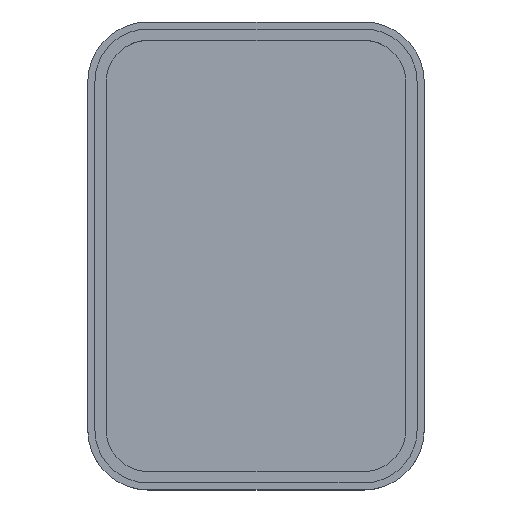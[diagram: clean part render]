
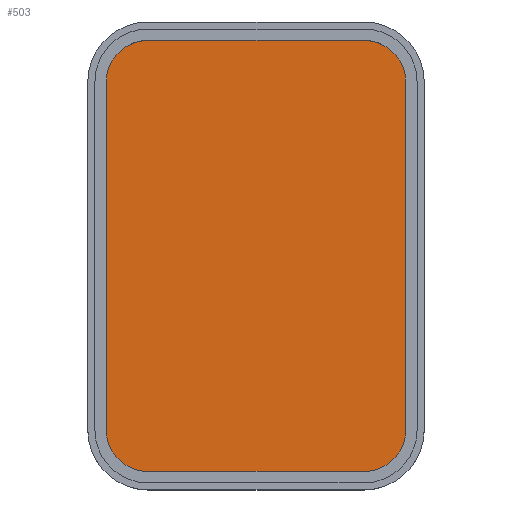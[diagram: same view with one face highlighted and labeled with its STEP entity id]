
A CAD part, top view. The second image highlights one B-rep face of the part: STEP entity #503.
In plain terms, the highlighted planar face has unit normal (0, 0, 1).
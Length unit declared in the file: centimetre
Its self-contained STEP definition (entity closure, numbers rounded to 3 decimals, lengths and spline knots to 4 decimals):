
#60=LINE('',#848,#108);
#61=LINE('',#853,#109);
#62=LINE('',#857,#110);
#63=LINE('',#861,#111);
#108=VECTOR('',#695,100.);
#109=VECTOR('',#698,100.);
#110=VECTOR('',#701,100.);
#111=VECTOR('',#704,100.);
#224=ORIENTED_EDGE('',*,*,#320,.T.);
#225=ORIENTED_EDGE('',*,*,#321,.T.);
#226=ORIENTED_EDGE('',*,*,#322,.F.);
#227=ORIENTED_EDGE('',*,*,#323,.T.);
#228=ORIENTED_EDGE('',*,*,#324,.F.);
#229=ORIENTED_EDGE('',*,*,#325,.T.);
#230=ORIENTED_EDGE('',*,*,#326,.T.);
#231=ORIENTED_EDGE('',*,*,#327,.T.);
#320=EDGE_CURVE('',#376,#377,#60,.T.);
#321=EDGE_CURVE('',#377,#378,#404,.T.);
#322=EDGE_CURVE('',#379,#378,#61,.T.);
#323=EDGE_CURVE('',#379,#380,#405,.T.);
#324=EDGE_CURVE('',#381,#380,#62,.T.);
#325=EDGE_CURVE('',#381,#382,#406,.T.);
#326=EDGE_CURVE('',#382,#383,#63,.T.);
#327=EDGE_CURVE('',#383,#376,#407,.T.);
#376=VERTEX_POINT('',#849);
#377=VERTEX_POINT('',#850);
#378=VERTEX_POINT('',#852);
#379=VERTEX_POINT('',#854);
#380=VERTEX_POINT('',#856);
#381=VERTEX_POINT('',#858);
#382=VERTEX_POINT('',#860);
#383=VERTEX_POINT('',#862);
#404=CIRCLE('',#565,0.3621);
#405=CIRCLE('',#566,0.3621);
#406=CIRCLE('',#567,0.3621);
#407=CIRCLE('',#568,0.3621);
#429=EDGE_LOOP('',(#224,#225,#226,#227,#228,#229,#230,#231));
#459=FACE_BOUND('',#429,.T.);
#479=PLANE('',#564);
#503=ADVANCED_FACE('',(#459),#479,.T.);
#564=AXIS2_PLACEMENT_3D('',#847,#693,#694);
#565=AXIS2_PLACEMENT_3D('',#851,#696,#697);
#566=AXIS2_PLACEMENT_3D('',#855,#699,#700);
#567=AXIS2_PLACEMENT_3D('',#859,#702,#703);
#568=AXIS2_PLACEMENT_3D('',#863,#705,#706);
#693=DIRECTION('',(0.,0.,1.));
#694=DIRECTION('',(1.,0.,0.));
#695=DIRECTION('',(1.,0.,0.));
#696=DIRECTION('',(0.,0.,1.));
#697=DIRECTION('',(1.,0.,0.));
#698=DIRECTION('',(0.,-1.,0.));
#699=DIRECTION('',(0.,0.,1.));
#700=DIRECTION('',(1.,0.,0.));
#701=DIRECTION('',(1.,0.,0.));
#702=DIRECTION('',(0.,0.,1.));
#703=DIRECTION('',(1.,0.,0.));
#704=DIRECTION('',(0.,-1.,0.));
#705=DIRECTION('',(0.,0.,1.));
#706=DIRECTION('',(1.,0.,0.));
#847=CARTESIAN_POINT('',(0.0005,0.6472,-0.62));
#848=CARTESIAN_POINT('',(0.0005,-1.2256,-0.62));
#849=CARTESIAN_POINT('',(-0.939,-1.2256,-0.62));
#850=CARTESIAN_POINT('',(0.94,-1.2256,-0.62));
#851=CARTESIAN_POINT('',(0.94,-0.8635,-0.62));
#852=CARTESIAN_POINT('',(1.3021,-0.8635,-0.62));
#853=CARTESIAN_POINT('',(1.3021,0.6472,-0.62));
#854=CARTESIAN_POINT('',(1.3021,2.1579,-0.62));
#855=CARTESIAN_POINT('',(0.94,2.1579,-0.62));
#856=CARTESIAN_POINT('',(0.94,2.5201,-0.62));
#857=CARTESIAN_POINT('',(0.0005,2.5201,-0.62));
#858=CARTESIAN_POINT('',(-0.939,2.5201,-0.62));
#859=CARTESIAN_POINT('',(-0.939,2.1579,-0.62));
#860=CARTESIAN_POINT('',(-1.3011,2.1579,-0.62));
#861=CARTESIAN_POINT('',(-1.3011,0.6472,-0.62));
#862=CARTESIAN_POINT('',(-1.3011,-0.8635,-0.62));
#863=CARTESIAN_POINT('',(-0.939,-0.8635,-0.62));
